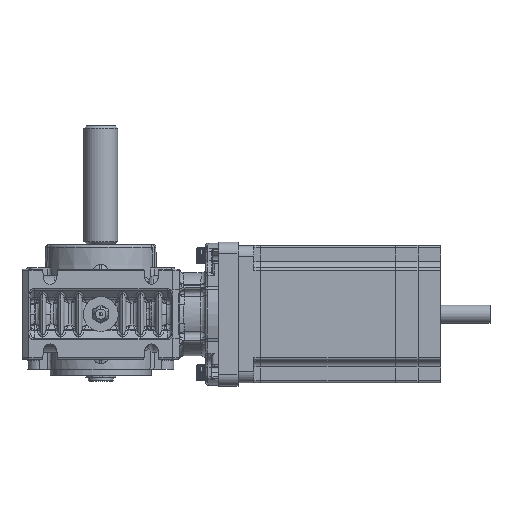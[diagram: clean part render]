
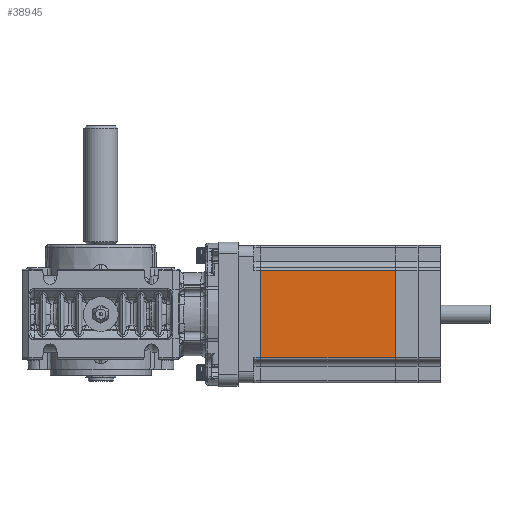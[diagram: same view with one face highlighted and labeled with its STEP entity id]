
A CAD part, front view. The second image highlights one B-rep face of the part: STEP entity #38945.
In plain terms, the highlighted planar face has unit normal (0, -1, 0).
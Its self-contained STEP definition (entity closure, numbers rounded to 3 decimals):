
#3133 = CARTESIAN_POINT ( 'NONE',  ( -12.595, -19.498, 134.933 ) ) ;
#15338 = CARTESIAN_POINT ( 'NONE',  ( -15.595, -19.498, 128.933 ) ) ;
#19185 = PLANE ( 'NONE',  #198563 ) ;
#26144 = VECTOR ( 'NONE', #122142, 1000. ) ;
#30763 = DIRECTION ( 'NONE',  ( 0., 0., -1. ) ) ;
#31647 = EDGE_CURVE ( 'NONE', #64818, #158942, #180864, .T. ) ;
#38945 = ADVANCED_FACE ( 'NONE', ( #183513 ), #19185, .T. ) ;
#39128 = EDGE_CURVE ( 'NONE', #84002, #158942, #48983, .T. ) ;
#48983 = LINE ( 'NONE', #15338, #26144 ) ;
#57707 = LINE ( 'NONE', #225371, #223280 ) ;
#64818 = VERTEX_POINT ( 'NONE', #203035 ) ;
#71483 = VECTOR ( 'NONE', #94397, 1000. ) ;
#79001 = CARTESIAN_POINT ( 'NONE',  ( 67.405, -19.498, 134.933 ) ) ;
#79127 = DIRECTION ( 'NONE',  ( 1., 0., 0. ) ) ;
#84002 = VERTEX_POINT ( 'NONE', #145473 ) ;
#84710 = LINE ( 'NONE', #157901, #195065 ) ;
#86261 = ORIENTED_EDGE ( 'NONE', *, *, #119966, .F. ) ;
#94397 = DIRECTION ( 'NONE',  ( 0., 0., 1. ) ) ;
#111036 = EDGE_CURVE ( 'NONE', #64818, #236056, #57707, .T. ) ;
#115118 = DIRECTION ( 'NONE',  ( 0., -1., 0. ) ) ;
#119966 = EDGE_CURVE ( 'NONE', #84002, #236056, #84710, .T. ) ;
#122142 = DIRECTION ( 'NONE',  ( -1., 0., 0. ) ) ;
#136776 = ORIENTED_EDGE ( 'NONE', *, *, #31647, .F. ) ;
#145473 = CARTESIAN_POINT ( 'NONE',  ( 47.405, -19.498, 128.933 ) ) ;
#157901 = CARTESIAN_POINT ( 'NONE',  ( 47.405, -19.498, 134.933 ) ) ;
#158942 = VERTEX_POINT ( 'NONE', #206231 ) ;
#169095 = EDGE_LOOP ( 'NONE', ( #86261, #232775, #136776, #181040 ) ) ;
#180864 = LINE ( 'NONE', #3133, #71483 ) ;
#181040 = ORIENTED_EDGE ( 'NONE', *, *, #111036, .T. ) ;
#183513 = FACE_OUTER_BOUND ( 'NONE', #169095, .T. ) ;
#188216 = DIRECTION ( 'NONE',  ( 1., 0., 0. ) ) ;
#189902 = CARTESIAN_POINT ( 'NONE',  ( 47.405, -19.498, 89.933 ) ) ;
#195065 = VECTOR ( 'NONE', #30763, 1000. ) ;
#198563 = AXIS2_PLACEMENT_3D ( 'NONE', #79001, #115118, #188216 ) ;
#203035 = CARTESIAN_POINT ( 'NONE',  ( -12.595, -19.498, 89.933 ) ) ;
#206231 = CARTESIAN_POINT ( 'NONE',  ( -12.595, -19.498, 128.933 ) ) ;
#223280 = VECTOR ( 'NONE', #79127, 1000. ) ;
#225371 = CARTESIAN_POINT ( 'NONE',  ( 67.405, -19.498, 89.933 ) ) ;
#232775 = ORIENTED_EDGE ( 'NONE', *, *, #39128, .T. ) ;
#236056 = VERTEX_POINT ( 'NONE', #189902 ) ;
